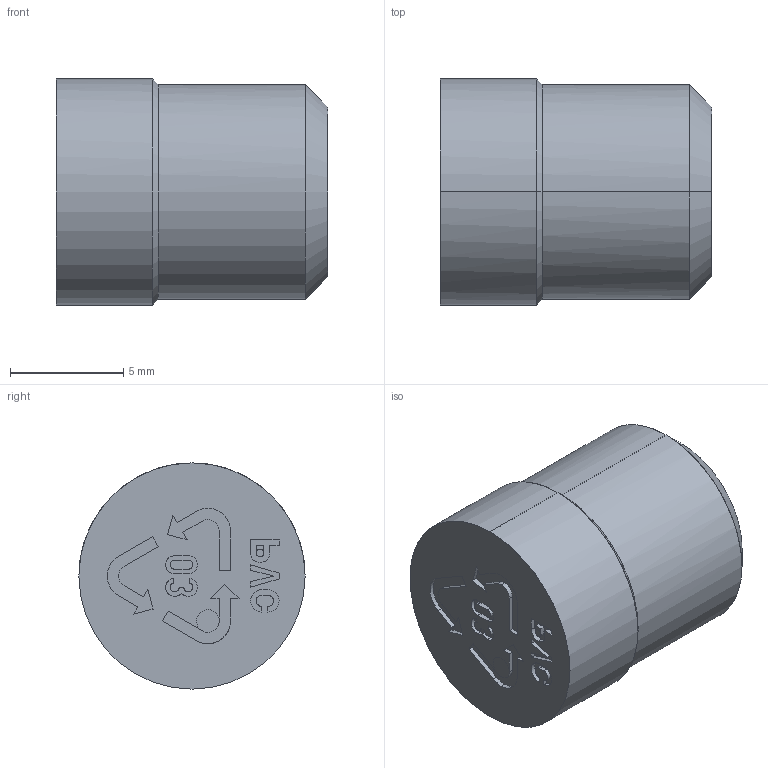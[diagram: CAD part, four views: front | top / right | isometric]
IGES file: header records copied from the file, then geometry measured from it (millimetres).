
Start section: START RECORD GO HERE.
Global section: file name: MSO310.igs; native system: DASSAULT SYSTEMES CATIA V5 R20 - www.3ds.com; preprocessor: CATIA Version 5 Release 20 ; author: Utente; organization: NB04-ASUS; date: 20210326.144057; units: millimetre
Bounding box: 12 x 10 x 10 mm (x, y, z)
Surface area: 577.8 mm2 (no closed solid volume)
Topology: 0 solids, 0 shells, 109 faces, 600 edges, 590 vertices
Faces by surface type: plane 65, revolution 44
